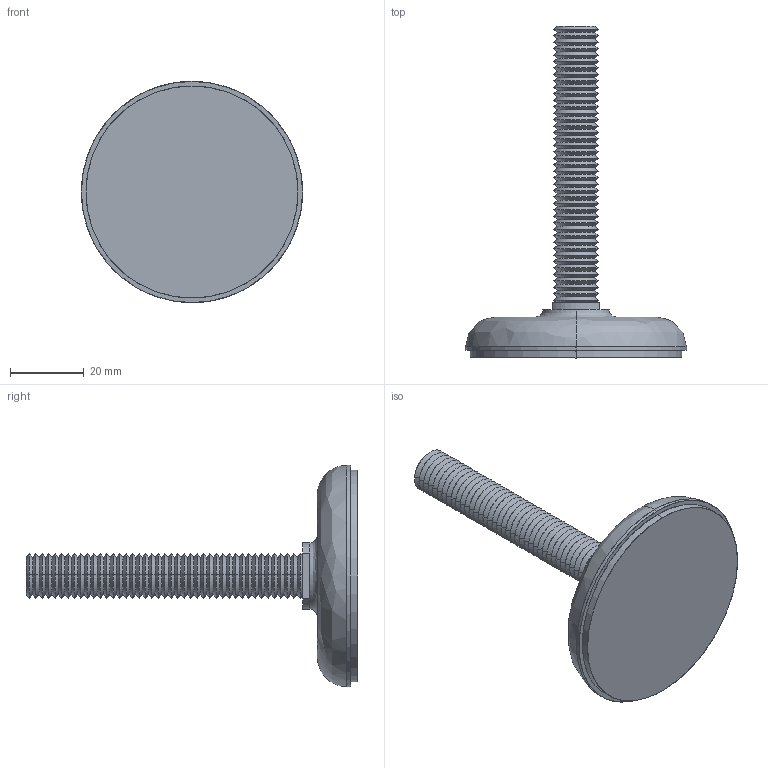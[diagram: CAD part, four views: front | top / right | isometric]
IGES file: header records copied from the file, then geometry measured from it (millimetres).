
Start section: SolidWorks IGES file using analytic representation for surfaces
Global section: file name: C:\Documents and Settings\IANO\Desktop\Temp File\Process pending\EXISTING\34780_v2\34780_v2_20170626_IGES\34780.W0125.igs; native system: SolidWorks 2009; preprocessor: SolidWorks 2009; author: IANO; date: 170626.122421; units: millimetre
Bounding box: 60 x 90 x 60 mm (x, y, z)
Surface area: 24941.3 mm2 (no closed solid volume)
Topology: 0 solids, 0 shells, 236 faces, 1858 edges, 1858 vertices
Faces by surface type: revolution 208, bspline 28
